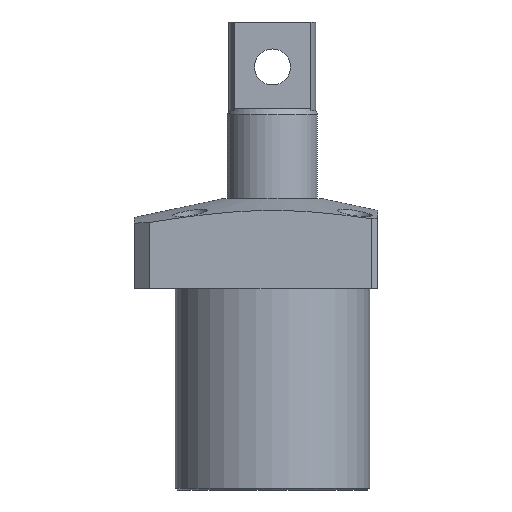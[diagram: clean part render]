
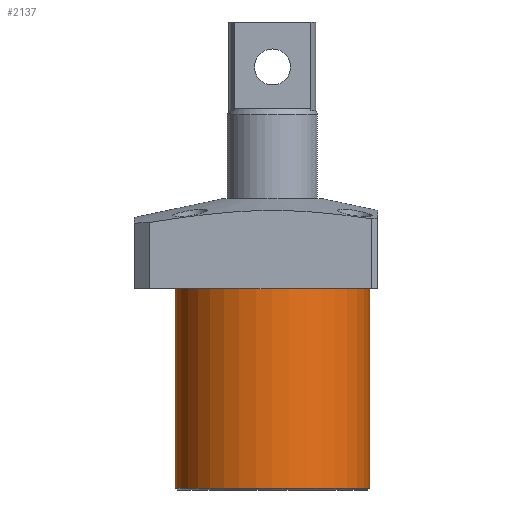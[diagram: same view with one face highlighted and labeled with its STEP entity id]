
A CAD part, front view. The second image highlights one B-rep face of the part: STEP entity #2137.
In plain terms, the highlighted cylindrical face has radius 32.4 mm (diameter 64.8 mm), a partial arc.
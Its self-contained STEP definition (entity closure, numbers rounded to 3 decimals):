
#280 = CARTESIAN_POINT ( 'NONE',  ( 0., 0., 67. ) ) ;
#373 = DIRECTION ( 'NONE',  ( -1., 0., 0. ) ) ;
#423 = CYLINDRICAL_SURFACE ( 'NONE', #1250, 32.4 ) ;
#454 = CARTESIAN_POINT ( 'NONE',  ( -32.4, 0., 67. ) ) ;
#466 = LINE ( 'NONE', #454, #2288 ) ;
#491 = CARTESIAN_POINT ( 'NONE',  ( -32.4, 0., 67. ) ) ;
#625 = ORIENTED_EDGE ( 'NONE', *, *, #1671, .F. ) ;
#661 = AXIS2_PLACEMENT_3D ( 'NONE', #280, #2112, #1094 ) ;
#679 = CARTESIAN_POINT ( 'NONE',  ( -32.4, 0., 0.6 ) ) ;
#710 = ORIENTED_EDGE ( 'NONE', *, *, #1072, .T. ) ;
#799 = CARTESIAN_POINT ( 'NONE',  ( 32.4, 0., 67. ) ) ;
#818 = VERTEX_POINT ( 'NONE', #2389 ) ;
#992 = VECTOR ( 'NONE', #1437, 1000. ) ;
#1014 = EDGE_CURVE ( 'NONE', #1698, #818, #1464, .T. ) ;
#1072 = EDGE_CURVE ( 'NONE', #1268, #818, #1876, .T. ) ;
#1094 = DIRECTION ( 'NONE',  ( 1., 0., 0. ) ) ;
#1110 = ORIENTED_EDGE ( 'NONE', *, *, #1014, .F. ) ;
#1250 = AXIS2_PLACEMENT_3D ( 'NONE', #1427, #2178, #373 ) ;
#1255 = VERTEX_POINT ( 'NONE', #491 ) ;
#1268 = VERTEX_POINT ( 'NONE', #679 ) ;
#1269 = DIRECTION ( 'NONE',  ( 0., 0., -1. ) ) ;
#1277 = CARTESIAN_POINT ( 'NONE',  ( 0., 0., 0.6 ) ) ;
#1323 = ORIENTED_EDGE ( 'NONE', *, *, #2325, .T. ) ;
#1377 = FACE_OUTER_BOUND ( 'NONE', #2297, .T. ) ;
#1427 = CARTESIAN_POINT ( 'NONE',  ( 0., 0., 67. ) ) ;
#1437 = DIRECTION ( 'NONE',  ( 0., 0., -1. ) ) ;
#1464 = LINE ( 'NONE', #799, #992 ) ;
#1478 = DIRECTION ( 'NONE',  ( 1., 0., 0. ) ) ;
#1507 = CIRCLE ( 'NONE', #661, 32.4 ) ;
#1671 = EDGE_CURVE ( 'NONE', #1255, #1698, #1507, .T. ) ;
#1698 = VERTEX_POINT ( 'NONE', #2505 ) ;
#1876 = CIRCLE ( 'NONE', #2003, 32.4 ) ;
#2003 = AXIS2_PLACEMENT_3D ( 'NONE', #1277, #2276, #1478 ) ;
#2112 = DIRECTION ( 'NONE',  ( 0., 0., 1. ) ) ;
#2137 = ADVANCED_FACE ( 'NONE', ( #1377 ), #423, .T. ) ;
#2178 = DIRECTION ( 'NONE',  ( 0., 0., -1. ) ) ;
#2276 = DIRECTION ( 'NONE',  ( 0., 0., 1. ) ) ;
#2288 = VECTOR ( 'NONE', #1269, 1000. ) ;
#2297 = EDGE_LOOP ( 'NONE', ( #1110, #625, #1323, #710 ) ) ;
#2325 = EDGE_CURVE ( 'NONE', #1255, #1268, #466, .T. ) ;
#2389 = CARTESIAN_POINT ( 'NONE',  ( 32.4, 0., 0.6 ) ) ;
#2505 = CARTESIAN_POINT ( 'NONE',  ( 32.4, 0., 67. ) ) ;
